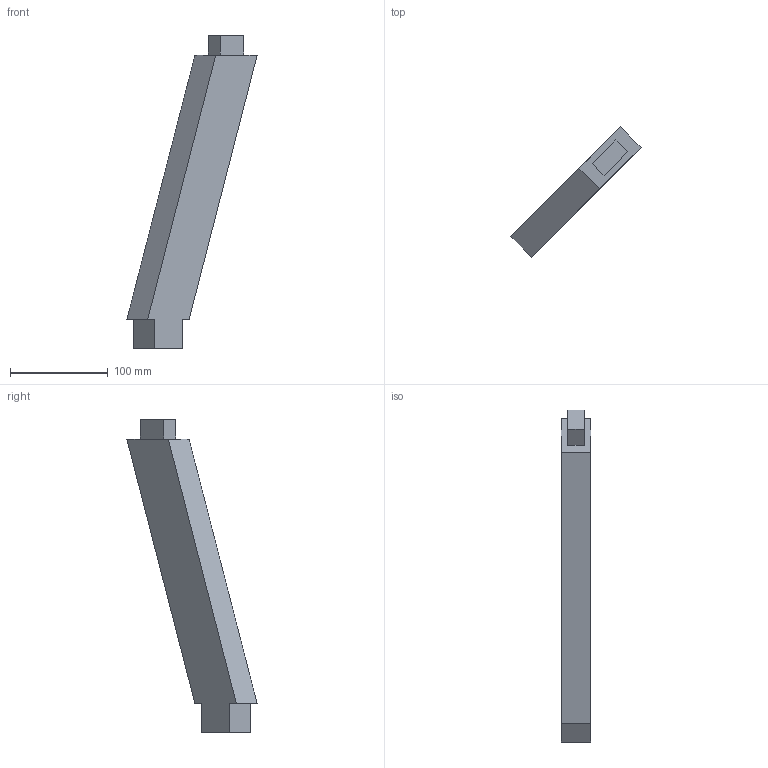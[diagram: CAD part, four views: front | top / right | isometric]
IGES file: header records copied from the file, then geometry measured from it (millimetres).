
Start section: SolidWorks IGES file using analytic representation for surfaces
Global section: file name: C:\Users\WZL\Desktop\標撿\seeed\20240518\褐4.IGS,15; native system: HSolidWorks 2016; preprocessor: SolidWorks 2016; author: WZL; date: 240519.110754; units: millimetre
Bounding box: 133.27 x 133.27 x 320.42 mm (x, y, z)
Surface area: 59577.9 mm2 (no closed solid volume)
Topology: 0 solids, 0 shells, 15 faces, 72 edges, 72 vertices
Faces by surface type: bspline 15
